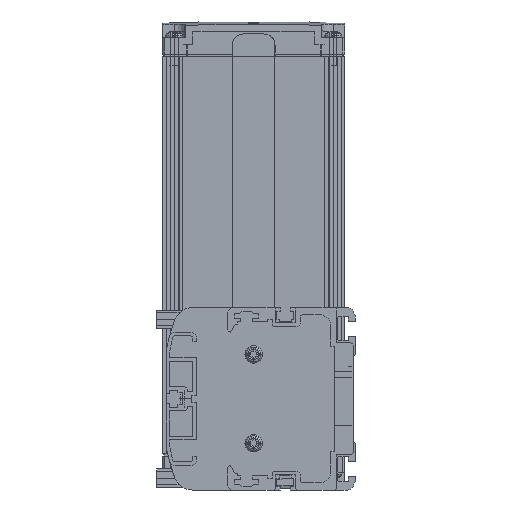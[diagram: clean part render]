
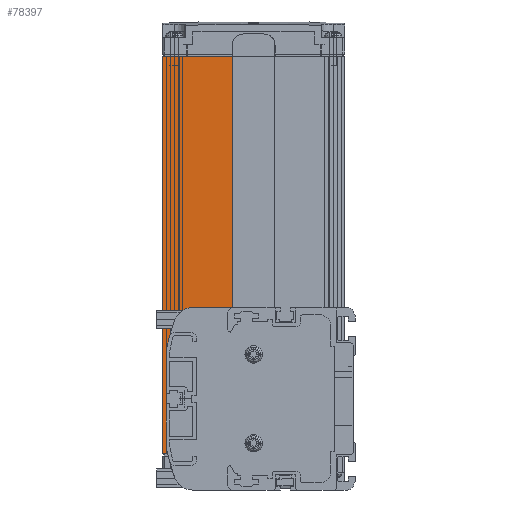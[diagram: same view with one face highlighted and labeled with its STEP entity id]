
A CAD part, left-side view. The second image highlights one B-rep face of the part: STEP entity #78397.
In plain terms, the highlighted planar face has unit normal (-1, 0, 0).
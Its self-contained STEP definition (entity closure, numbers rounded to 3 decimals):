
#76979=DIRECTION('',(0.,-1.,0.));
#76980=VECTOR('',#76979,17.9);
#76981=CARTESIAN_POINT('',(3.,70.5,27.5));
#76982=LINE('',#76981,#76980);
#76987=DIRECTION('',(0.,0.,1.));
#76988=VECTOR('',#76987,51.);
#76989=CARTESIAN_POINT('',(3.,70.5,-23.5));
#76990=LINE('',#76989,#76988);
#76995=DIRECTION('',(0.,-1.,0.));
#76996=VECTOR('',#76995,12.);
#76997=CARTESIAN_POINT('',(3.,82.5,-23.5));
#76998=LINE('',#76997,#76996);
#76999=DIRECTION('',(0.,0.,-1.));
#77000=VECTOR('',#76999,170.);
#77001=CARTESIAN_POINT('',(3.,82.5,146.5));
#77002=LINE('',#77001,#77000);
#77003=DIRECTION('',(0.,1.,0.));
#77004=VECTOR('',#77003,29.9);
#77005=CARTESIAN_POINT('',(3.,52.6,146.5));
#77006=LINE('',#77005,#77004);
#77041=DIRECTION('',(0.,0.,1.));
#77042=VECTOR('',#77041,119.);
#77043=CARTESIAN_POINT('',(3.,52.6,27.5));
#77044=LINE('',#77043,#77042);
#77198=CARTESIAN_POINT('',(3.,70.5,-23.5));
#77199=VERTEX_POINT('',#77198);
#77200=CARTESIAN_POINT('',(3.,82.5,-23.5));
#77201=VERTEX_POINT('',#77200);
#77336=CARTESIAN_POINT('',(3.,52.6,146.5));
#77337=VERTEX_POINT('',#77336);
#77338=CARTESIAN_POINT('',(3.,82.5,146.5));
#77339=VERTEX_POINT('',#77338);
#77396=CARTESIAN_POINT('',(3.,70.5,27.5));
#77397=CARTESIAN_POINT('',(3.,52.6,27.5));
#77398=VERTEX_POINT('',#77396);
#77399=VERTEX_POINT('',#77397);
#78382=CARTESIAN_POINT('',(3.,67.55,61.5));
#78383=DIRECTION('',(1.,0.,0.));
#78384=DIRECTION('',(0.,-1.,0.));
#78385=AXIS2_PLACEMENT_3D('',#78382,#78383,#78384);
#78386=PLANE('',#78385);
#78387=ORIENTED_EDGE('',*,*,#78358,.F.);
#78388=ORIENTED_EDGE('',*,*,#78375,.F.);
#78389=ORIENTED_EDGE('',*,*,#77503,.F.);
#78391=ORIENTED_EDGE('',*,*,#78390,.F.);
#78392=ORIENTED_EDGE('',*,*,#77914,.F.);
#78394=ORIENTED_EDGE('',*,*,#78393,.F.);
#78395=EDGE_LOOP('',(#78387,#78388,#78389,#78391,#78392,#78394));
#78396=FACE_OUTER_BOUND('',#78395,.F.);
#78397=ADVANCED_FACE('',(#78396),#78386,.F.);
#77503=EDGE_CURVE('',#77201,#77199,#76998,.T.);
#77914=EDGE_CURVE('',#77337,#77339,#77006,.T.);
#78358=EDGE_CURVE('',#77398,#77399,#76982,.T.);
#78375=EDGE_CURVE('',#77199,#77398,#76990,.T.);
#78390=EDGE_CURVE('',#77339,#77201,#77002,.T.);
#78393=EDGE_CURVE('',#77399,#77337,#77044,.T.);
